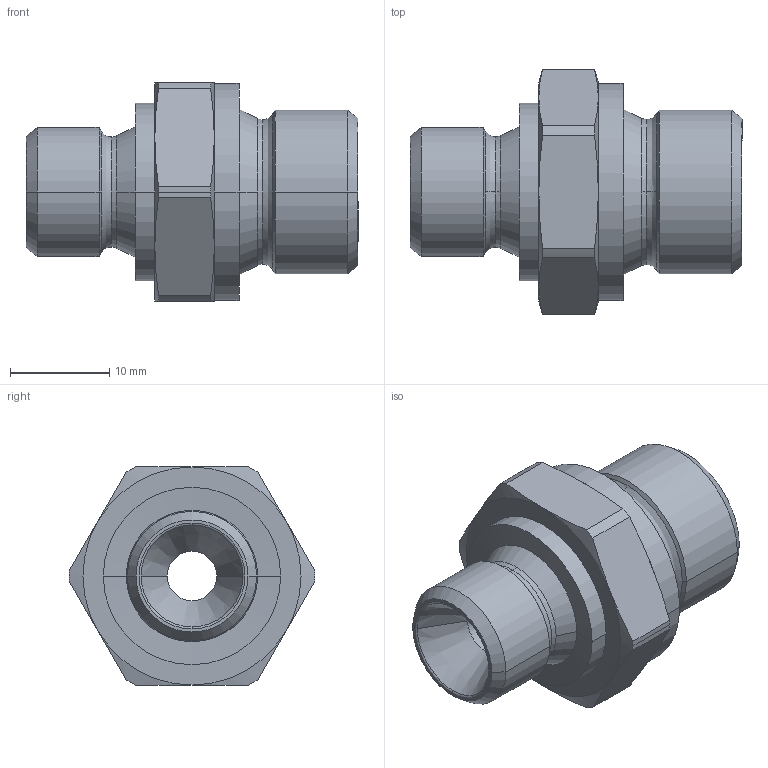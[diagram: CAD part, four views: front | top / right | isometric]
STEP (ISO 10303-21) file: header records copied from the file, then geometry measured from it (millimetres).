
FILE_DESCRIPTION((''),'2;1');
FILE_NAME('300505.stp','2006-09-11T08:08:53',(''),(''),'AutoCAD STEP 2000i','AutoCAD 2000i',', , ');
FILE_SCHEMA(('CONFIG_CONTROL_DESIGN'));
Length unit declared in the file: millimetre
Products named in the file (2): 300505.0; CHIAVE SMUSSATA#0
Assembly tree (1 placements, depth 2):
  300505.0
    CHIAVE SMUSSATA#0
Bounding box: 33.5 x 24.8 x 22 mm (x, y, z)
Volume: 6169.9 mm3; surface area: 3208.1 mm2
Topology: 1 solids, 1 shells, 76 faces, 178 edges, 106 vertices
Faces by surface type: cone 34, cylinder 20, plane 10, bspline 8, torus 4
Entity records: 2593 total; most frequent: CARTESIAN_POINT 762, DIRECTION 400, ORIENTED_EDGE 356, EDGE_CURVE 178, AXIS2_PLACEMENT_3D 176, VERTEX_POINT 106, CIRCLE 106, EDGE_LOOP 80
